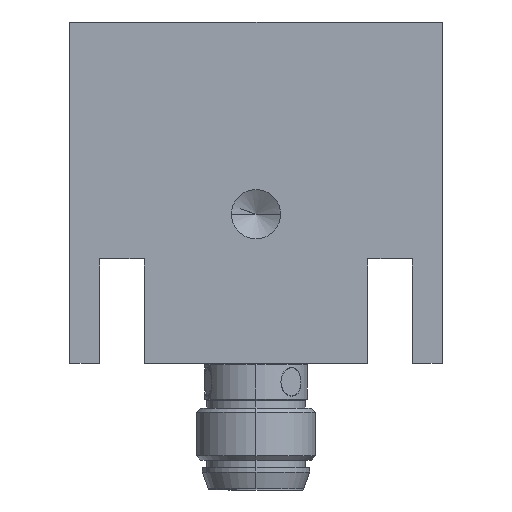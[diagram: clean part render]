
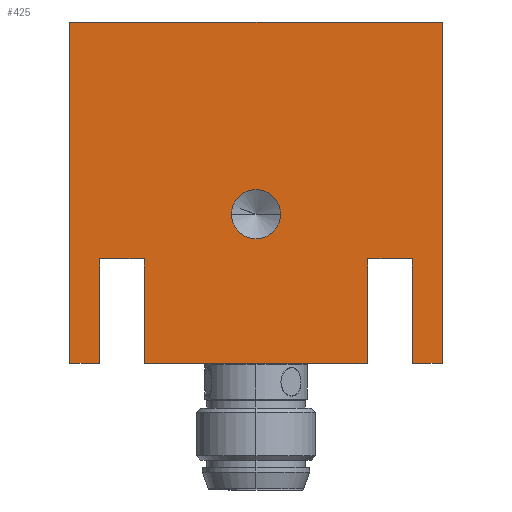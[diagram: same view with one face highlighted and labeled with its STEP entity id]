
A CAD part, left-side view. The second image highlights one B-rep face of the part: STEP entity #425.
In plain terms, the highlighted planar face has unit normal (-1, 0, 0).
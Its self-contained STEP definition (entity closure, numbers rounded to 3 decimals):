
#425=ADVANCED_FACE('2:12651',(#1009,#1010),#1011,.T.);
#1009=FACE_BOUND('',#1818,.T.);
#1010=FACE_OUTER_BOUND('',#1819,.T.);
#1011=PLANE('',#1820);
#1818=EDGE_LOOP('',(#3000,#3001));
#1819=EDGE_LOOP('',(#3002,#3003,#3004,#3005,#3006,#3007,#3008,#3009,#3010,#3011,#3012,#3013));
#1820=AXIS2_PLACEMENT_3D('',#3014,#3015,#3016);
#3000=ORIENTED_EDGE('',*,*,#4752,.T.);
#3001=ORIENTED_EDGE('',*,*,#4753,.T.);
#3002=ORIENTED_EDGE('',*,*,#4754,.T.);
#3003=ORIENTED_EDGE('',*,*,#4755,.F.);
#3004=ORIENTED_EDGE('',*,*,#4429,.F.);
#3005=ORIENTED_EDGE('',*,*,#4756,.F.);
#3006=ORIENTED_EDGE('',*,*,#4617,.F.);
#3007=ORIENTED_EDGE('',*,*,#4757,.F.);
#3008=ORIENTED_EDGE('',*,*,#4678,.F.);
#3009=ORIENTED_EDGE('',*,*,#4758,.F.);
#3010=ORIENTED_EDGE('',*,*,#4622,.F.);
#3011=ORIENTED_EDGE('',*,*,#4525,.F.);
#3012=ORIENTED_EDGE('',*,*,#4551,.F.);
#3013=ORIENTED_EDGE('',*,*,#4759,.T.);
#3014=CARTESIAN_POINT('',(-12.011,19.9,0.));
#3015=DIRECTION('',(-1.0,0.,0.));
#3016=DIRECTION('',(0.,0.,1.0));
#4429=EDGE_CURVE('2:13137',#5241,#5243,#5244,.T.);
#4525=EDGE_CURVE('2:13176',#5410,#5405,#5412,.F.);
#4551=EDGE_CURVE('2:13164',#5452,#5410,#5453,.T.);
#4617=EDGE_CURVE('2:13119',#5565,#5566,#5567,.T.);
#4622=EDGE_CURVE('2:13101',#5405,#5574,#5575,.T.);
#4678=EDGE_CURVE('2:13083',#5669,#5671,#5672,.T.);
#4752=EDGE_CURVE('2:13239',#5778,#5779,#5780,.T.);
#4753=EDGE_CURVE('',#5779,#5778,#5781,.T.);
#4754=EDGE_CURVE('2:13272',#5782,#5783,#5784,.T.);
#4755=EDGE_CURVE('2:13269',#5243,#5783,#5785,.T.);
#4756=EDGE_CURVE('2:13128',#5566,#5241,#5786,.F.);
#4757=EDGE_CURVE('2:13110',#5671,#5565,#5787,.F.);
#4758=EDGE_CURVE('2:13182',#5574,#5669,#5788,.F.);
#4759=EDGE_CURVE('2:13158',#5452,#5782,#5789,.T.);
#5241=VERTEX_POINT('',#6434);
#5243=VERTEX_POINT('',#6437);
#5244=LINE('',#6438,#6439);
#5405=VERTEX_POINT('',#6711);
#5410=VERTEX_POINT('',#6718);
#5412=LINE('',#6721,#6722);
#5452=VERTEX_POINT('',#6784);
#5453=LINE('',#6785,#6786);
#5565=VERTEX_POINT('',#7090);
#5566=VERTEX_POINT('',#7091);
#5567=LINE('',#7092,#7093);
#5574=VERTEX_POINT('',#7103);
#5575=LINE('',#7104,#7105);
#5669=VERTEX_POINT('',#7226);
#5671=VERTEX_POINT('',#7229);
#5672=LINE('',#7230,#7231);
#5778=VERTEX_POINT('',#7369);
#5779=VERTEX_POINT('',#7370);
#5780=CIRCLE('',#7371,1.65);
#5781=CIRCLE('',#7372,1.65);
#5782=VERTEX_POINT('',#7373);
#5783=VERTEX_POINT('',#7374);
#5784=LINE('',#7375,#7376);
#5785=LINE('',#7377,#7378);
#5786=LINE('',#7379,#7380);
#5787=LINE('',#7381,#7382);
#5788=LINE('',#7383,#7384);
#5789=LINE('',#7385,#7386);
#6434=CARTESIAN_POINT('',(-12.011,0.,-10.5));
#6437=CARTESIAN_POINT('',(-12.011,0.,-12.5));
#6438=CARTESIAN_POINT('',(-12.011,0.,-6.));
#6439=VECTOR('',#8752,1.0);
#6711=CARTESIAN_POINT('',(-12.011,7.,10.5));
#6718=CARTESIAN_POINT('',(-12.011,0.,10.5));
#6721=CARTESIAN_POINT('',(-12.011,6.4,10.5));
#6722=VECTOR('',#8908,1.0);
#6784=CARTESIAN_POINT('',(-12.011,0.,12.5));
#6785=CARTESIAN_POINT('',(-12.011,0.,-6.));
#6786=VECTOR('',#8947,1.0);
#7090=CARTESIAN_POINT('',(-12.011,7.,-7.498));
#7091=CARTESIAN_POINT('',(-12.011,7.,-10.5));
#7092=CARTESIAN_POINT('',(-12.011,7.,-6.));
#7093=VECTOR('',#9052,1.0);
#7103=CARTESIAN_POINT('',(-12.011,7.,7.502));
#7104=CARTESIAN_POINT('',(-12.011,7.,-6.));
#7105=VECTOR('',#9056,1.0);
#7226=CARTESIAN_POINT('',(-12.011,0.,7.502));
#7229=CARTESIAN_POINT('',(-12.011,0.,-7.498));
#7230=CARTESIAN_POINT('',(-12.011,0.,-6.));
#7231=VECTOR('',#9146,1.0);
#7369=CARTESIAN_POINT('',(-12.011,10.,-1.65));
#7370=CARTESIAN_POINT('',(-12.011,10.,1.65));
#7371=AXIS2_PLACEMENT_3D('',#9267,#9268,#9269);
#7372=AXIS2_PLACEMENT_3D('',#9270,#9271,#9272);
#7373=CARTESIAN_POINT('',(-12.011,22.9,12.5));
#7374=CARTESIAN_POINT('',(-12.011,22.9,-12.5));
#7375=CARTESIAN_POINT('',(-12.011,22.9,12.5));
#7376=VECTOR('',#9273,1.0);
#7377=CARTESIAN_POINT('',(-12.011,19.9,-12.5));
#7378=VECTOR('',#9274,1.0);
#7379=CARTESIAN_POINT('',(-12.011,6.4,-10.5));
#7380=VECTOR('',#9275,1.0);
#7381=CARTESIAN_POINT('',(-12.011,6.4,-7.498));
#7382=VECTOR('',#9276,1.0);
#7383=CARTESIAN_POINT('',(-12.011,6.4,7.502));
#7384=VECTOR('',#9277,1.0);
#7385=CARTESIAN_POINT('',(-12.011,12.8,12.5));
#7386=VECTOR('',#9278,1.0);
#8752=DIRECTION('',(0.,0.,-1.0));
#8908=DIRECTION('',(0.,-1.0,0.));
#8947=DIRECTION('',(0.,0.,-1.0));
#9052=DIRECTION('',(0.,0.,-1.0));
#9056=DIRECTION('',(0.,0.,-1.0));
#9146=DIRECTION('',(0.,0.,-1.0));
#9267=CARTESIAN_POINT('',(-12.011,10.,0.));
#9268=DIRECTION('',(1.0,0.,0.));
#9269=DIRECTION('',(0.,0.,-1.0));
#9270=CARTESIAN_POINT('',(-12.011,10.,0.));
#9271=DIRECTION('',(1.0,0.,0.));
#9272=DIRECTION('',(0.,0.,-1.0));
#9273=DIRECTION('',(0.,0.,-1.0));
#9274=DIRECTION('',(0.,1.0,0.));
#9275=DIRECTION('',(0.,1.0,0.));
#9276=DIRECTION('',(0.,-1.0,0.));
#9277=DIRECTION('',(0.,1.0,0.));
#9278=DIRECTION('',(0.,1.0,0.));
